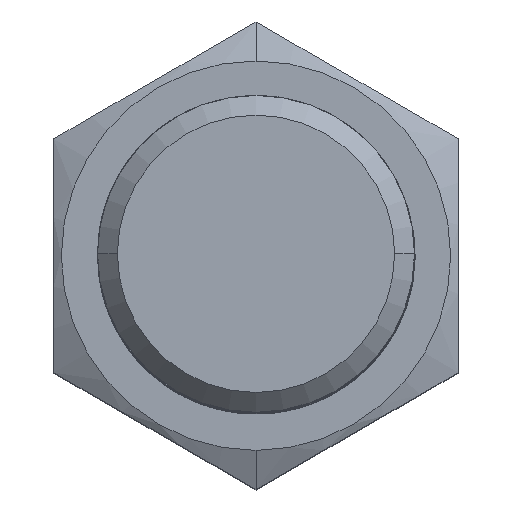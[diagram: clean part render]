
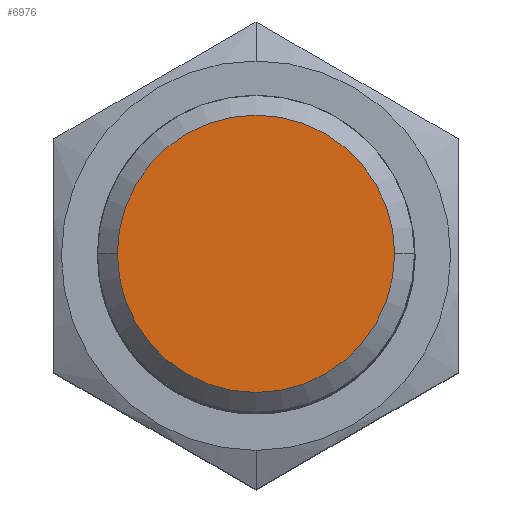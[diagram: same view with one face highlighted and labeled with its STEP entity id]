
A CAD part, top view. The second image highlights one B-rep face of the part: STEP entity #6976.
In plain terms, the highlighted planar face has unit normal (0, 0, 1).
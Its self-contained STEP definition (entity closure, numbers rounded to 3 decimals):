
#3391=CARTESIAN_POINT('',(0.,0.,45.));
#3392=DIRECTION('',(0.,0.,1.));
#3393=DIRECTION('',(1.,0.,0.));
#3394=AXIS2_PLACEMENT_3D('',#3391,#3392,#3393);
#3396=CARTESIAN_POINT('',(0.,0.,45.));
#3397=DIRECTION('',(0.,0.,1.));
#3398=DIRECTION('',(-1.,0.,0.));
#3399=AXIS2_PLACEMENT_3D('',#3396,#3397,#3398);
#4039=CARTESIAN_POINT('',(3.5,0.,45.));
#4040=CARTESIAN_POINT('',(-3.5,0.,45.));
#4041=VERTEX_POINT('',#4039);
#4042=VERTEX_POINT('',#4040);
#6967=CARTESIAN_POINT('',(0.,0.,45.));
#6968=DIRECTION('',(0.,0.,1.));
#6969=DIRECTION('',(1.,0.,0.));
#6970=AXIS2_PLACEMENT_3D('',#6967,#6968,#6969);
#6971=PLANE('',#6970);
#6972=ORIENTED_EDGE('',*,*,#6961,.F.);
#6973=ORIENTED_EDGE('',*,*,#6947,.F.);
#6974=EDGE_LOOP('',(#6972,#6973));
#6975=FACE_OUTER_BOUND('',#6974,.F.);
#3395=CIRCLE('',#3394,3.5);
#3400=CIRCLE('',#3399,3.5);
#6947=EDGE_CURVE('',#4042,#4041,#3400,.T.);
#6961=EDGE_CURVE('',#4041,#4042,#3395,.T.);
#6976=ADVANCED_FACE('',(#6975),#6971,.T.);
